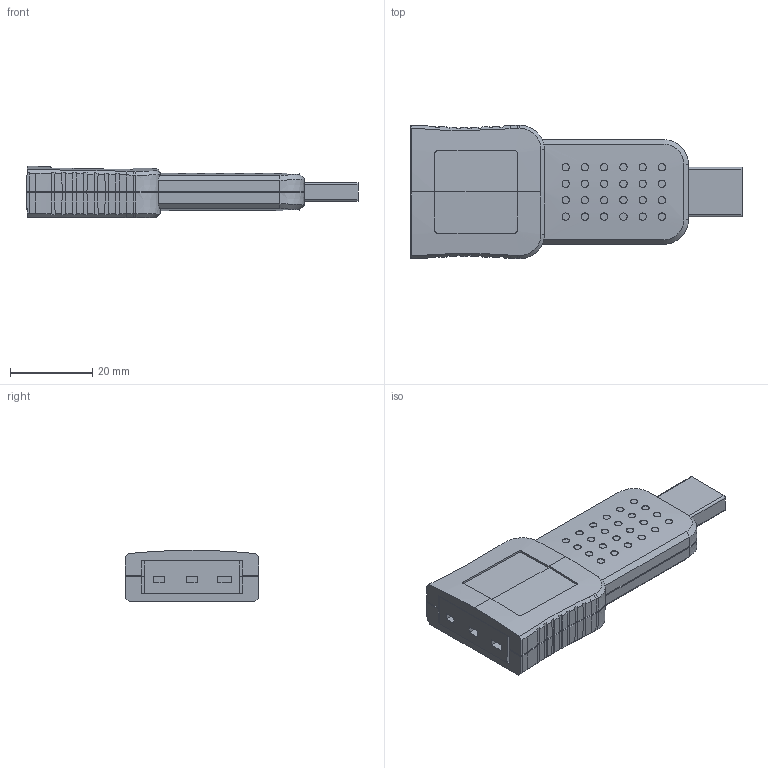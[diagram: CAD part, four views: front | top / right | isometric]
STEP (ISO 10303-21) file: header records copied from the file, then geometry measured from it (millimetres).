
FILE_DESCRIPTION (( 'STEP AP214' ), '1' );
FILE_NAME ('VCP-TMC100k-CAL.STEP', '2024-05-26T17:58:35', ( '' ), ( '' ), 'SwSTEP 2.0', 'SolidWorks 2021', '' );
FILE_SCHEMA (( 'AUTOMOTIVE_DESIGN' ));
Length unit declared in the file: millimetre
Products named in the file (1): VCP-TMC100k-CAL
Bounding box: 80.74 x 32.48 x 12.5 mm (x, y, z)
Volume: 19553.5 mm3; surface area: 11667.5 mm2
Topology: 5 solids, 5 shells, 1015 faces, 2685 edges, 1782 vertices
Faces by surface type: plane 440, bspline 317, cylinder 186, cone 72
Entity records: 47665 total; most frequent: CARTESIAN_POINT 24299, ORIENTED_EDGE 5370, DIRECTION 3292, EDGE_CURVE 2685, VERTEX_POINT 1782, VECTOR 1202, LINE 1202, EDGE_LOOP 1125
